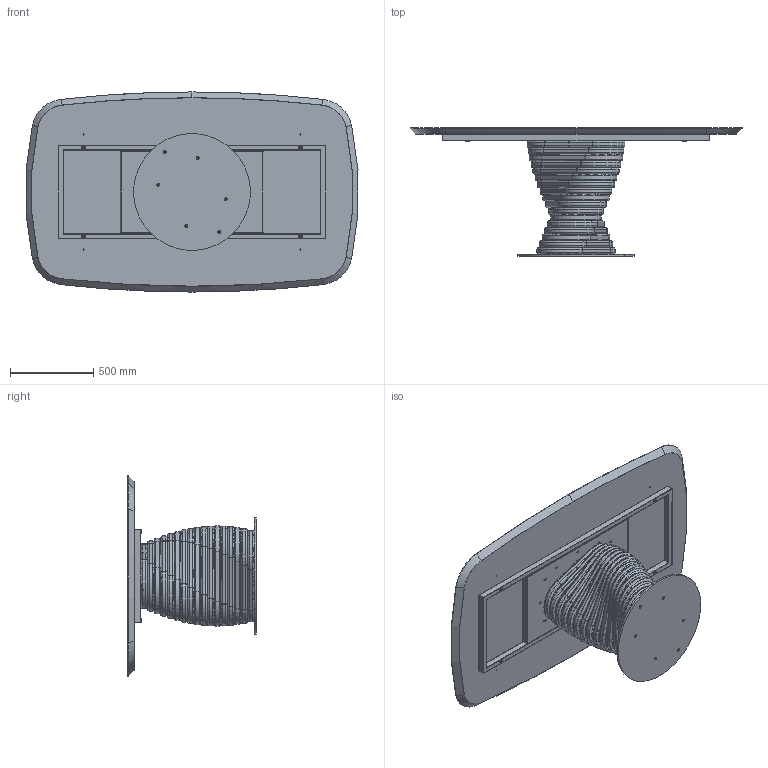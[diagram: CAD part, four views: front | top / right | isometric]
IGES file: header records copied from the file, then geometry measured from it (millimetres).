
Start section: SolidWorks IGES file using analytic representation for surfaces
Global section: file name: Y:\eforma\TECNICO\SOLIDWORKS\E-FORMA\1-TAVOLI\ROTOLO\02 parts\RO41W.IGS; native system: SolidWorks 2022; preprocessor: SolidWorks 2022; author: eforma.tech; date: 240807.153855; units: millimetre
Bounding box: 1990.53 x 770 x 1200 mm (x, y, z)
Volume: 94638621.7 mm3; surface area: 12425199.4 mm2
Topology: 94 solids, 94 shells, 1687 faces, 4008 edges, 2465 vertices
Faces by surface type: revolution 1033, plane 654
